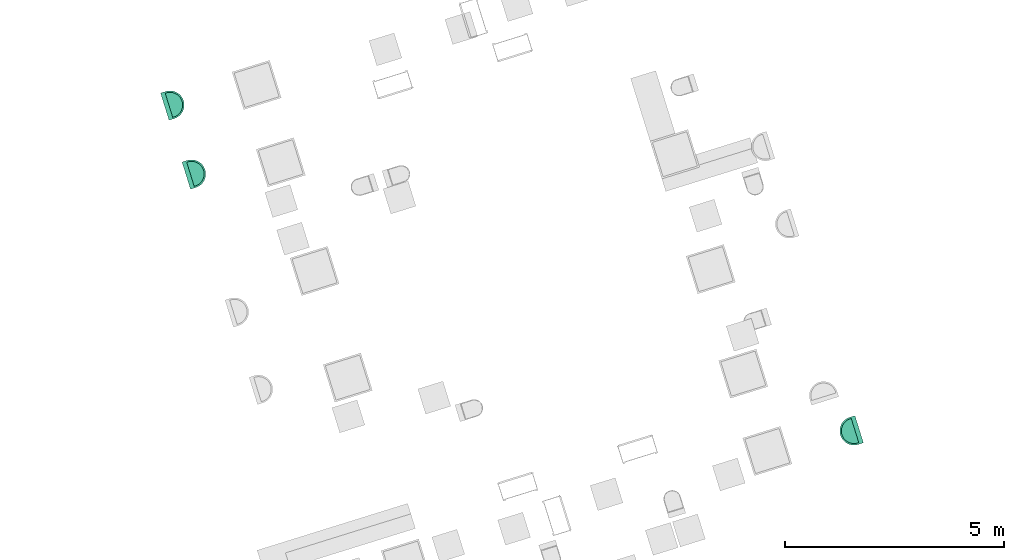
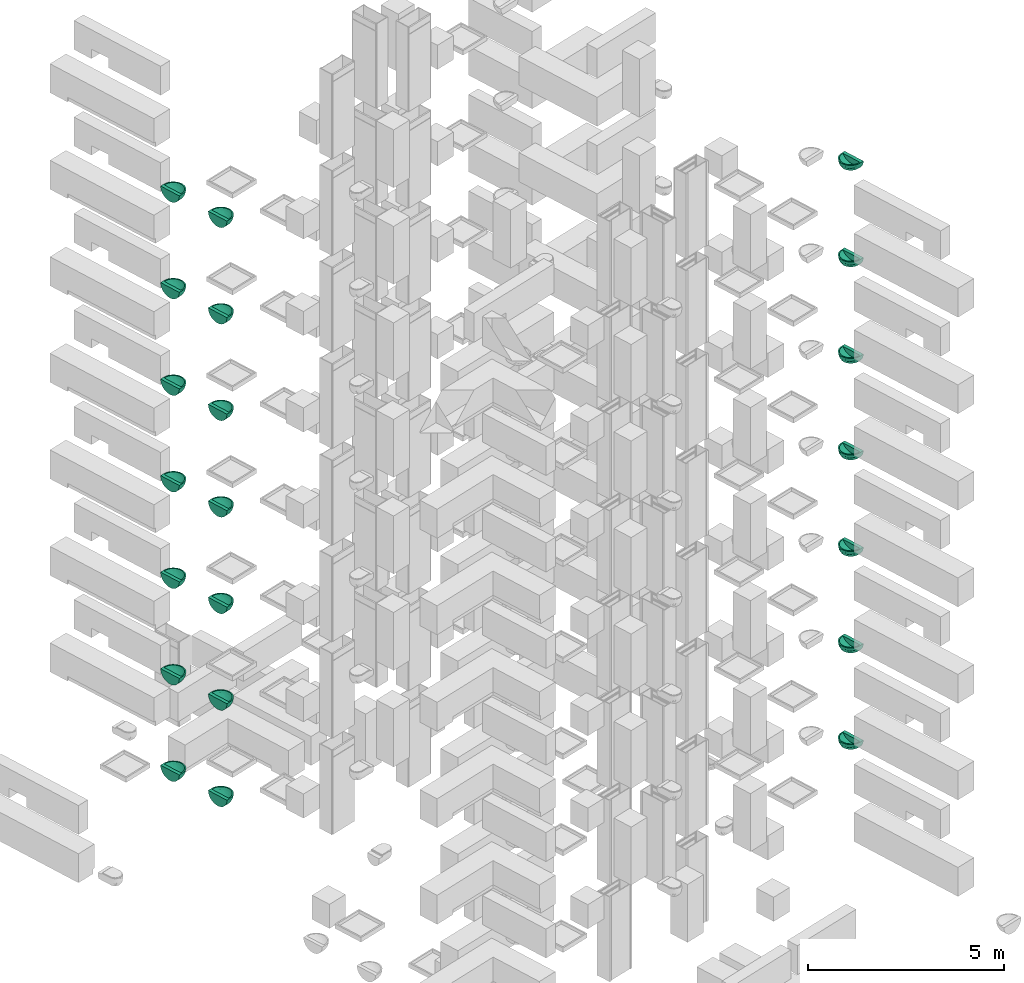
# Not in any storey, part 13 of 20: 21 sanitary terminals.
"""IFC4 model written with IfcOpenShell, lengths in metres."""

from ifc_helpers import new_model, entity, si_unit, converted_unit, direction, frame, origin, place, context, subcontext, project, polygons, source, transform, mapped, material, type_object, element, save


model = new_model("IFC4")

# Units and contexts
model_context = context("Model", 3, precision=1e-05, world=origin(), true_north=direction((6.12323399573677e-17, 1.0)))
body_context = subcontext(model_context, "Body", "Model", "MODEL_VIEW")
ifc_project = project(units=[si_unit("LENGTHUNIT", "METRE"), si_unit("AREAUNIT", "SQUARE_METRE"), si_unit("VOLUMEUNIT", "CUBIC_METRE"), converted_unit("PLANEANGLEUNIT", "DEGREE", entity("IfcPlaneAngleMeasure", 0.0174532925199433), si_unit("PLANEANGLEUNIT", "RADIAN"), dimensions=[0, 0, 0, 0, 0, 0, 0])], contexts=[model_context])

# Sanitary terminals
ifc_material = material(Name="<Unnamed>")
sanitary_terminal_type = type_object("IfcSanitaryTerminalType", Name="NLRS_74_PF_WB_wastafel_gen:wastafel", PredefinedType="SINK", material=ifc_material)
shared_shape = source(origin(), body_context, "Body", "Tessellation", [
    polygons([(-0.303081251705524, 0.175000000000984, -3.7), (-0.303081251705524, 0.0499999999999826, -3.7), (0.021918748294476, 0.0499999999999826, -3.7), (0.021918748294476, 0.150000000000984, -3.7), (-0.266395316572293, 0.150000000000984, -3.7), (-0.266395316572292, 0.175000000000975, -3.7), (-0.264816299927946, 0.205133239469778, -3.7), (-0.260095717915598, 0.234940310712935, -3.7), (-0.252285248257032, 0.264090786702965, -3.7), (-0.241470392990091, 0.292265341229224, -3.7), (-0.227769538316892, 0.319155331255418, -3.7), (-0.21133265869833, 0.344466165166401, -3.7), (-0.192339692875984, 0.367920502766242, -3.7), (-0.170998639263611, 0.389261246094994, -3.7), (-0.147543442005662, 0.408254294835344, -3.7), (-0.122231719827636, 0.424691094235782, -3.7), (-0.0953421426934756, 0.438391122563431, -3.7), (-0.0671705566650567, 0.449204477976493, -3.7), (-0.038024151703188, 0.457013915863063, -3.7), (-0.00821701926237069, 0.461734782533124, -3.7), (0.021918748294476, 0.463314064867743, -3.7), (0.021918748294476, 0.500000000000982, -3.7), (-0.0414856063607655, 0.493755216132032, -3.7), (-0.102453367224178, 0.475260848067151, -3.7), (-0.158641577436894, 0.44522762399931, -3.7), (-0.207890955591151, 0.404809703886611, -3.7), (-0.248308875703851, 0.355560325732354, -3.7), (-0.278342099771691, 0.299372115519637, -3.7), (-0.296836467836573, 0.238404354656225, -3.7), (0.346918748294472, 0.175000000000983, -3.7), (0.340673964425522, 0.238404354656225, -3.7), (0.32217959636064, 0.299372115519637, -3.7), (0.292146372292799, 0.355560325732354, -3.7), (0.2517284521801, 0.404809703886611, -3.7), (0.202479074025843, 0.44522762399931, -3.7), (0.146290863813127, 0.475260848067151, -3.7), (0.0853231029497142, 0.493755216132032, -3.7), (0.0520545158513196, 0.461734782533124, -3.7), (0.0818616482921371, 0.457013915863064, -3.7), (0.111008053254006, 0.449204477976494, -3.7), (0.139179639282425, 0.438391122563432, -3.7), (0.166069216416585, 0.424691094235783, -3.7), (0.191380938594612, 0.408254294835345, -3.7), (0.214836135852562, 0.389261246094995, -3.7), (0.236177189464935, 0.367920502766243, -3.7), (0.255170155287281, 0.344466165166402, -3.7), (0.271607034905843, 0.319155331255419, -3.7), (0.285307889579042, 0.292265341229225, -3.7), (0.296122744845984, 0.264090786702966, -3.7), (0.303933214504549, 0.234940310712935, -3.7), (0.308653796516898, 0.205133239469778, -3.7), (0.310232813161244, 0.175000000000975, -3.7), (0.310232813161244, 0.150000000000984, -3.7), (0.346918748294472, 0.0499999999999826, -3.7), (-0.298628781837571, 0.175000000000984, -3.75361232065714), (-0.285393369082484, 0.175000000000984, -3.8057556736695), (-0.263737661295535, 0.175000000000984, -3.85500134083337), (-0.234255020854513, 0.175000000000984, -3.9), (-0.234255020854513, 0.0749999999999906, -3.9), (-0.193925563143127, 0.0749999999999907, -3.94297372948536), (-0.146498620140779, 0.0749999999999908, -3.97795789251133), (-0.0935337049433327, 0.0749999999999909, -4.00380212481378), (-0.0367724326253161, 0.074999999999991, -4.01965660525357), (0.0219187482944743, 0.074999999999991, -4.025), (0.0806099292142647, 0.074999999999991, -4.01965660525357), (0.137371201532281, 0.0749999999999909, -4.00380212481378), (0.190336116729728, 0.0749999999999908, -3.97795789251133), (0.237763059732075, 0.0749999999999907, -3.94297372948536), (0.278092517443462, 0.0749999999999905, -3.9), (0.278092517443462, 0.175000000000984, -3.9), (0.307575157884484, 0.175000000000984, -3.85500134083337), (0.329230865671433, 0.175000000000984, -3.8057556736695), (0.34246627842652, 0.175000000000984, -3.75361232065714), (0.340673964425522, 0.0499999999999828, -3.76340435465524), (0.32217959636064, 0.049999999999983, -3.82437211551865), (0.292146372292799, 0.0499999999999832, -3.88056032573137), (0.2517284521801, 0.0499999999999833, -3.92980970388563), (0.202479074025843, 0.0499999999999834, -3.97022762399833), (0.146290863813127, 0.0499999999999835, -4.00026084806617), (0.085323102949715, 0.0499999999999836, -4.01875521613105), (0.0219187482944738, 0.0499999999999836, -4.025), (-0.0414856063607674, 0.0499999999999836, -4.01875521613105), (-0.102453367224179, 0.0499999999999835, -4.00026084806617), (-0.158641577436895, 0.0499999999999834, -3.97022762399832), (-0.207890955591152, 0.0499999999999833, -3.92980970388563), (-0.248308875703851, 0.0499999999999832, -3.88056032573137), (-0.278342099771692, 0.049999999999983, -3.82437211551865), (-0.296836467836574, 0.0499999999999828, -3.76340435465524), (-0.21409029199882, 0.0749999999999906, -3.92148686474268), (-0.170212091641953, 0.0749999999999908, -3.96046581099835), (0.214049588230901, 0.0749999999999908, -3.96046581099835), (0.257927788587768, 0.0749999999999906, -3.92148686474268), (0.27193741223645, 0.0499999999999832, -3.9051850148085), (0.227103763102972, 0.0499999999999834, -3.95001866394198), (0.174384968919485, 0.0499999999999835, -3.98524423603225), (0.115806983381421, 0.0499999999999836, -4.00950803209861), (-0.0719694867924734, 0.0499999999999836, -4.00950803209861), (-0.130547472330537, 0.0499999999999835, -3.98524423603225), (-0.183266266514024, 0.0499999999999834, -3.95001866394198), (-0.228099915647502, 0.0499999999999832, -3.9051850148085), (0.163853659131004, 0.0749999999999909, -3.99088000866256), (0.108990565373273, 0.0749999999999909, -4.01172936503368), (-0.0651530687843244, 0.0749999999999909, -4.01172936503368), (-0.120016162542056, 0.0749999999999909, -3.99088000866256), (0.27659082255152, 0.202697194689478, -3.9), (0.272103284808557, 0.230069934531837, -3.9), (0.264682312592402, 0.256797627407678, -3.9), (0.254414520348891, 0.282567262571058, -3.9), (0.24141970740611, 0.307076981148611, -3.9), (0.225849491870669, 0.330039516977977, -3.9), (0.207885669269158, 0.351185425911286, -3.9), (0.18773840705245, 0.370266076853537, -3.9), (0.165644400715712, 0.38705644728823, -3.9), (0.141864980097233, 0.401357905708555, -3.9), (0.116683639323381, 0.413001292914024, -3.9), (0.0904016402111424, 0.421850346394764, -3.9), (0.0633306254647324, 0.427804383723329, -3.9), (0.0357845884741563, 0.430798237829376, -3.9), (0.00807674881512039, 0.43079952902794, -3.9), (-0.0194777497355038, 0.427806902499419, -3.9), (-0.0465597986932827, 0.421851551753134, -3.9), (-0.0728496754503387, 0.412999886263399, -3.9), (-0.0980340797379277, 0.401354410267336, -3.9), (-0.121813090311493, 0.387052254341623, -3.9), (-0.1439051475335, 0.370262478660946, -3.9), (-0.164050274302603, 0.351183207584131, -3.9), (-0.182012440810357, 0.33003893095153, -3.9), (-0.197581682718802, 0.307077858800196, -3.9), (-0.210576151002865, 0.282569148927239, -3.9), (-0.220844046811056, 0.256799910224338, -3.9), (-0.228265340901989, 0.230071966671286, -3.9), (-0.232753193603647, 0.202698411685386, -3.9), (-0.257045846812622, 0.297316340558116, -3.81332461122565), (0.300884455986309, 0.297313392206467, -3.81332505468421), (-0.0097834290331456, 0.496877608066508, -3.7), (-0.205655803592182, 0.378737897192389, -3.81102113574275), (0.249493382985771, 0.378737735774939, -3.81102126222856), (0.0536209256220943, 0.496877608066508, -3.7), (0.0219337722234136, 0.481913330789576, -3.80690747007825), (-0.0719694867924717, 0.484508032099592, -3.7), (0.11580698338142, 0.484508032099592, -3.7), (-0.0425022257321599, 0.471258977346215, -3.81707073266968), (-0.165040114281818, 0.416191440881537, -3.81179477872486), (0.20887408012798, 0.416198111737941, -3.81178629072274), (0.0863501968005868, 0.471256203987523, -3.8170719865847), (-0.23446246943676, 0.305265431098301, -3.85140868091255), (0.278301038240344, 0.305263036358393, -3.85140892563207), (-0.120243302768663, 0.443687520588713, -3.81498681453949), (0.164074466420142, 0.443691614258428, -3.81498507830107), (-0.233336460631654, 0.358005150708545, -3.78353976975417), (0.277175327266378, 0.358003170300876, -3.78353992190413), (-0.290060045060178, 0.240925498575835, -3.76283359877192), (0.333897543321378, 0.240925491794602, -3.76283359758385), (-0.275008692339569, 0.237028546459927, -3.81666856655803), (-0.254394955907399, 0.239447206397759, -3.85850014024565), (-0.272362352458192, 0.296908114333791, -3.76451391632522), (0.31884634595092, 0.237026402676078, -3.81666930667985), (0.298232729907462, 0.239444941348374, -3.85850057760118), (0.316201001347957, 0.296905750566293, -3.76451312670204), (-0.0755829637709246, 0.474402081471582, -3.78047862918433), (-0.0690330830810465, 0.449635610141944, -3.84808121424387), (0.119420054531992, 0.474406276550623, -3.7804635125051), (0.112885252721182, 0.449636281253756, -3.84807095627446), (-0.228099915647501, 0.380185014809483, -3.7), (0.27193741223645, 0.380185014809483, -3.7), (-0.183266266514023, 0.425018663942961, -3.7), (0.227103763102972, 0.425018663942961, -3.7), (-0.130547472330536, 0.460244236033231, -3.7), (0.174384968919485, 0.460244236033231, -3.7), (-0.234514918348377, 0.175000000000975, -3.74966665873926), (-0.194178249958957, 0.175000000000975, -3.79274902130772), (-0.146715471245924, 0.175000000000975, -3.82782638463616), (-0.0936917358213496, 0.175000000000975, -3.85374202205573), (-0.0368555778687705, 0.175000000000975, -3.86964132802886), (0.0219187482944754, 0.175000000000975, -3.875), (0.0806930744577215, 0.175000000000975, -3.86964132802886), (0.137529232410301, 0.175000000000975, -3.85374202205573), (0.190552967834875, 0.175000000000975, -3.82782638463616), (0.238015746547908, 0.175000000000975, -3.79274902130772), (0.278352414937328, 0.175000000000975, -3.74966665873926), (-0.119627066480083, 0.322173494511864, -3.80284332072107), (0.163464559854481, 0.32217349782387, -3.8028433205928), (-0.200517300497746, 0.262511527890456, -3.77020203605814), (0.244354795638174, 0.262511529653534, -3.77020203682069), (-0.162633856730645, 0.347041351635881, -3.75485875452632), (0.206471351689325, 0.347041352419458, -3.75485875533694), (0.00220012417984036, 0.367185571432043, -3.81134437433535), (-0.0912046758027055, 0.393814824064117, -3.76200981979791), (0.135042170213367, 0.393814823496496, -3.76200982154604), (0.0498196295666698, 0.280825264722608, -3.85601887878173), (-0.0620730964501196, 0.266760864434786, -3.85025041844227), (0.160889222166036, 0.248929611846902, -3.83433540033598), (0.0405814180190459, 0.417340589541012, -3.76574926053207), (0.0863370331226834, 0.354389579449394, -3.81323879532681), (-0.00909478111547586, 0.420066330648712, -3.76120050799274), (-0.0478694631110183, 0.381606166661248, -3.79097405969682), (-0.0422183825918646, 0.327597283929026, -3.82968821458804), (-0.0074080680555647, 0.286981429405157, -3.8536858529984), (-0.00719351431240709, 0.22811728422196, -3.869305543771), (-0.0504034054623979, 0.422275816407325, -3.7481140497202), (0.115439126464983, 0.298042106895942, -3.83590134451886), (0.101584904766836, 0.237319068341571, -3.85886022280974), (-0.144773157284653, 0.251326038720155, -3.81835264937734), (0.0860600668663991, 0.418745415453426, -3.75518056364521), (-0.234512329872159, 0.150000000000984, -3.74966998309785), (-0.19417475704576, 0.150000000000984, -3.79275213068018), (-0.146711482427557, 0.150000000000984, -3.8278288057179), (-0.0936885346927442, 0.150000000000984, -3.85374324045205), (-0.0368543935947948, 0.150000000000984, -3.869641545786), (0.021917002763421, 0.150000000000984, -3.87499999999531), (0.080687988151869, 0.150000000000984, -3.86964226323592), (0.137520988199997, 0.150000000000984, -3.85374515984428), (0.19054233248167, 0.150000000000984, -3.82783283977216), (0.238003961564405, 0.150000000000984, -3.79275951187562), (0.278341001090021, 0.150000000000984, -3.74968131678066)], [[[22, 135, 23, 140, 24, 168, 25, 166, 26, 164, 27, 28, 29, 1, 2, 3, 54, 30, 31, 32, 33, 165, 34, 167, 35, 169, 36, 141, 37, 138], [21, 38, 39, 40, 41, 42, 43, 44, 45, 46, 47, 48, 49, 50, 51, 52, 53, 4, 5, 6, 7, 8, 9, 10, 11, 12, 13, 14, 15, 16, 17, 18, 19, 20]], [[55, 2, 1]], [[88, 55, 56]], [[56, 57, 87]], [[89, 100, 59]], [[97, 62, 103]], [[104, 83, 98]], [[82, 103, 63]], [[97, 103, 82]], [[63, 81, 82]], [[57, 58, 59]], [[68, 77, 94]], [[86, 59, 100]], [[86, 87, 57]], [[88, 2, 55]], [[56, 87, 88]], [[59, 86, 57]], [[98, 84, 61]], [[83, 62, 97]], [[60, 99, 85]], [[90, 61, 84]], [[69, 76, 93]], [[90, 99, 60]], [[100, 89, 85]], [[60, 85, 89]], [[78, 67, 91]], [[63, 64, 81]], [[66, 96, 102]], [[83, 104, 62]], [[68, 94, 91]], [[67, 78, 95]], [[79, 101, 95]], [[67, 95, 101]], [[72, 73, 74]], [[69, 70, 71]], [[75, 71, 72]], [[77, 68, 92]], [[81, 64, 65]], [[54, 73, 30]], [[99, 90, 84]], [[102, 80, 65]], [[79, 66, 101]], [[91, 94, 78]], [[80, 102, 96]], [[65, 80, 81]], [[66, 79, 96]], [[93, 77, 92]], [[69, 71, 76]], [[75, 76, 71]], [[72, 74, 75]], [[73, 54, 74]], [[69, 93, 92]], [[98, 61, 104]], [[74, 54, 3, 2, 88, 87, 86, 100, 85, 99, 84, 98, 83, 97, 82, 81, 80, 96, 79, 95, 78, 94, 77, 93, 76, 75]], [[143, 136, 25]], [[32, 159, 33]], [[134, 157, 158]], [[143, 125, 126]], [[146, 150, 136]], [[126, 127, 143]], [[109, 147, 108]], [[136, 143, 127]], [[125, 143, 148]], [[153, 157, 159]], [[121, 122, 161]], [[142, 135, 139]], [[153, 159, 32]], [[119, 120, 142]], [[24, 148, 143]], [[142, 160, 23]], [[147, 151, 134]], [[160, 161, 148]], [[124, 148, 123]], [[140, 148, 24]], [[160, 140, 23]], [[158, 106, 107]], [[128, 146, 136]], [[29, 28, 152]], [[148, 140, 160]], [[55, 152, 56]], [[156, 133, 154]], [[29, 55, 1]], [[152, 55, 29]], [[151, 34, 165]], [[137, 151, 147]], [[156, 28, 27]], [[121, 161, 142]], [[119, 142, 139]], [[131, 155, 130]], [[129, 130, 146]], [[149, 112, 113]], [[150, 26, 166]], [[58, 57, 155]], [[139, 118, 119]], [[56, 154, 57]], [[155, 57, 154]], [[161, 123, 148]], [[138, 145, 139]], [[155, 146, 130]], [[127, 128, 136]], [[133, 164, 150]], [[155, 132, 58]], [[161, 160, 142]], [[145, 138, 37]], [[71, 70, 158]], [[128, 129, 146]], [[139, 135, 22]], [[138, 139, 22]], [[139, 145, 118]], [[135, 142, 23]], [[145, 116, 117]], [[114, 149, 113]], [[149, 141, 36]], [[144, 35, 137]], [[154, 152, 156]], [[146, 155, 133]], [[110, 144, 137]], [[148, 124, 125]], [[163, 145, 162]], [[151, 165, 134]], [[144, 112, 149]], [[137, 109, 110]], [[118, 145, 117]], [[154, 133, 155]], [[162, 145, 37]], [[28, 156, 152]], [[150, 146, 133]], [[24, 143, 25, 168]], [[111, 112, 144]], [[110, 111, 144]], [[116, 145, 163]], [[137, 167, 151]], [[109, 137, 147]], [[120, 121, 142]], [[71, 158, 157]], [[107, 147, 158]], [[162, 37, 141]], [[147, 134, 158]], [[107, 108, 147]], [[157, 72, 71]], [[70, 105, 158]], [[152, 154, 56]], [[153, 31, 73]], [[114, 115, 163]], [[137, 35, 167]], [[156, 164, 133]], [[30, 73, 31]], [[153, 73, 72]], [[150, 166, 136]], [[157, 134, 159]], [[105, 106, 158]], [[31, 153, 32]], [[144, 36, 169, 35]], [[155, 131, 132]], [[164, 26, 150]], [[159, 134, 165]], [[157, 153, 72]], [[161, 122, 123]], [[141, 149, 162]], [[149, 114, 163]], [[149, 163, 162]], [[116, 163, 115]], [[164, 156, 27]], [[165, 33, 159]], [[25, 136, 166]], [[34, 151, 167]], [[36, 144, 149]], [[16, 15, 185]], [[190, 187, 198]], [[14, 13, 185]], [[199, 202, 190]], [[197, 198, 187]], [[183, 185, 11]], [[188, 17, 16]], [[191, 197, 181]], [[21, 195, 193]], [[193, 194, 204]], [[191, 203, 173]], [[197, 187, 196]], [[195, 200, 196]], [[20, 195, 21]], [[188, 16, 185]], [[195, 196, 187]], [[188, 196, 200]], [[198, 197, 191]], [[8, 183, 9]], [[188, 200, 18]], [[8, 7, 170]], [[201, 194, 190]], [[192, 201, 202]], [[170, 7, 6]], [[10, 9, 183]], [[20, 19, 200]], [[203, 183, 171]], [[173, 203, 172]], [[190, 202, 201]], [[171, 183, 170]], [[170, 183, 8]], [[185, 13, 12]], [[10, 183, 11]], [[179, 184, 178]], [[17, 188, 18]], [[12, 11, 185]], [[198, 199, 190]], [[14, 185, 15]], [[196, 188, 181]], [[174, 199, 191]], [[195, 187, 193]], [[182, 189, 194]], [[186, 42, 189]], [[182, 192, 184]], [[202, 176, 177]], [[189, 41, 40]], [[39, 38, 204]], [[43, 42, 186]], [[45, 44, 186]], [[197, 196, 181]], [[186, 184, 47]], [[194, 193, 187]], [[204, 189, 40]], [[186, 47, 46]], [[194, 201, 182]], [[44, 43, 186]], [[174, 175, 199]], [[48, 47, 184]], [[42, 41, 189]], [[174, 191, 173]], [[178, 184, 192]], [[192, 177, 178]], [[182, 184, 186]], [[181, 183, 203]], [[199, 198, 191]], [[181, 188, 185]], [[179, 180, 184]], [[200, 195, 20]], [[18, 200, 19]], [[180, 50, 184]], [[52, 51, 180]], [[50, 180, 51]], [[38, 21, 193]], [[46, 45, 186]], [[202, 199, 175]], [[184, 50, 49]], [[48, 184, 49]], [[181, 185, 183]], [[192, 182, 201]], [[40, 39, 204]], [[190, 194, 187]], [[182, 186, 189]], [[192, 202, 177]], [[175, 176, 202]], [[181, 203, 191]], [[172, 203, 171]], [[189, 204, 194]], [[193, 204, 38]], [[6, 5, 170]], [[170, 205, 171]], [[173, 172, 207]], [[206, 172, 171]], [[174, 173, 208]], [[170, 5, 205]], [[171, 205, 206]], [[174, 209, 210]], [[173, 207, 208]], [[174, 208, 209]], [[207, 172, 206]], [[210, 175, 174]], [[176, 175, 211]], [[176, 212, 177]], [[179, 178, 214]], [[213, 178, 177]], [[180, 179, 215]], [[212, 176, 211]], [[213, 177, 212]], [[214, 215, 179]], [[178, 213, 214]], [[53, 180, 215]], [[180, 53, 52]], [[210, 211, 175]], [[215, 214, 213, 212, 211, 210, 209, 208, 207, 206, 205, 5, 4, 53]], [[67, 101, 66, 102, 65, 64, 63, 103, 62, 104, 61, 90, 60, 89, 59, 69, 92, 68, 91]], [[69, 59, 58, 132, 131, 130, 129, 128, 127, 126, 125, 124, 123, 122, 121, 120, 119, 118, 117, 116, 115, 114, 113, 112, 111, 110, 109, 108, 107, 106, 105, 70]]], closed=True),
])
placement_1 = place(None, frame((13.1347999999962, 11.9886000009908, 0.0), z_axis=(0.0, 0.0, 1.0), x_axis=(0.954770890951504, 0.297342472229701, 0.0)))
placement_2 = place(placement_1, origin())
placement_3 = place(placement_2, frame((0.0, 0.0, 6.9)))
placement_4 = place(placement_3, origin())
sanitary_terminal_1_placement = place(placement_4, frame((22.7750000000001, 11.1530812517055, 4.525), z_axis=(0.0, 0.0, 1.0), x_axis=(0.0, 1.0, 0.0)))
element("IfcSanitaryTerminal", 1, at=sanitary_terminal_1_placement, type_object=sanitary_terminal_type, material=ifc_material, Name="NLRS_74_PF_WB_wastafel_gen:wastafel", ObjectType="NLRS_74_PF_WB_wastafel_gen:wastafel", PredefinedType="SINK", context=body_context, shape_type="MappedRepresentation", body=[
    mapped(shared_shape, transform((0.0, 0.0, 0.0), scale=1.0)),
])
placement_5 = place(placement_2, frame((0.0, 0.0, 9.9)))
placement_6 = place(placement_5, origin())
sanitary_terminal_2_placement = place(placement_6, frame((22.7750000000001, 11.1530812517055, 4.525), z_axis=(0.0, 0.0, 1.0), x_axis=(0.0, 1.0, 0.0)))
element("IfcSanitaryTerminal", 2, at=sanitary_terminal_2_placement, type_object=sanitary_terminal_type, material=ifc_material, Name="NLRS_74_PF_WB_wastafel_gen:wastafel", ObjectType="NLRS_74_PF_WB_wastafel_gen:wastafel", PredefinedType="SINK", context=body_context, shape_type="MappedRepresentation", body=[
    mapped(shared_shape, transform((0.0, 0.0, 0.0), scale=1.0)),
])
placement_7 = place(placement_2, frame((0.0, 0.0, 12.9)))
placement_8 = place(placement_7, origin())
sanitary_terminal_3_placement = place(placement_8, frame((22.7750000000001, 11.1530812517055, 4.525), z_axis=(0.0, 0.0, 1.0), x_axis=(0.0, 1.0, 0.0)))
element("IfcSanitaryTerminal", 3, at=sanitary_terminal_3_placement, type_object=sanitary_terminal_type, material=ifc_material, Name="NLRS_74_PF_WB_wastafel_gen:wastafel", ObjectType="NLRS_74_PF_WB_wastafel_gen:wastafel", PredefinedType="SINK", context=body_context, shape_type="MappedRepresentation", body=[
    mapped(shared_shape, transform((0.0, 0.0, 0.0), scale=1.0)),
])
placement_9 = place(placement_2, frame((0.0, 0.0, 15.9)))
placement_10 = place(placement_9, origin())
sanitary_terminal_4_placement = place(placement_10, frame((22.7750000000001, 11.1530812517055, 4.525), z_axis=(0.0, 0.0, 1.0), x_axis=(0.0, 1.0, 0.0)))
element("IfcSanitaryTerminal", 4, at=sanitary_terminal_4_placement, type_object=sanitary_terminal_type, material=ifc_material, Name="NLRS_74_PF_WB_wastafel_gen:wastafel", ObjectType="NLRS_74_PF_WB_wastafel_gen:wastafel", PredefinedType="SINK", context=body_context, shape_type="MappedRepresentation", body=[
    mapped(shared_shape, transform((0.0, 0.0, 0.0), scale=1.0)),
])
placement_11 = place(placement_2, frame((0.0, 0.0, 18.9)))
placement_12 = place(placement_11, origin())
sanitary_terminal_5_placement = place(placement_12, frame((22.7750000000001, 11.1530812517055, 4.525), z_axis=(0.0, 0.0, 1.0), x_axis=(0.0, 1.0, 0.0)))
element("IfcSanitaryTerminal", 5, at=sanitary_terminal_5_placement, type_object=sanitary_terminal_type, material=ifc_material, Name="NLRS_74_PF_WB_wastafel_gen:wastafel", ObjectType="NLRS_74_PF_WB_wastafel_gen:wastafel", PredefinedType="SINK", context=body_context, shape_type="MappedRepresentation", body=[
    mapped(shared_shape, transform((0.0, 0.0, 0.0), scale=1.0)),
])
placement_13 = place(placement_2, frame((0.0, 0.0, 21.9)))
placement_14 = place(placement_13, origin())
sanitary_terminal_6_placement = place(placement_14, frame((22.7750000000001, 11.1530812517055, 4.525), z_axis=(0.0, 0.0, 1.0), x_axis=(0.0, 1.0, 0.0)))
element("IfcSanitaryTerminal", 6, at=sanitary_terminal_6_placement, type_object=sanitary_terminal_type, material=ifc_material, Name="NLRS_74_PF_WB_wastafel_gen:wastafel", ObjectType="NLRS_74_PF_WB_wastafel_gen:wastafel", PredefinedType="SINK", context=body_context, shape_type="MappedRepresentation", body=[
    mapped(shared_shape, transform((0.0, 0.0, 0.0), scale=1.0)),
])
placement_15 = place(placement_2, frame((0.0, 0.0, 24.9)))
placement_16 = place(placement_15, origin())
sanitary_terminal_7_placement = place(placement_16, frame((22.7750000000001, 11.1530812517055, 4.525), z_axis=(0.0, 0.0, 1.0), x_axis=(0.0, 1.0, 0.0)))
element("IfcSanitaryTerminal", 7, at=sanitary_terminal_7_placement, type_object=sanitary_terminal_type, material=ifc_material, Name="NLRS_74_PF_WB_wastafel_gen:wastafel", ObjectType="NLRS_74_PF_WB_wastafel_gen:wastafel", PredefinedType="SINK", context=body_context, shape_type="MappedRepresentation", body=[
    mapped(shared_shape, transform((0.0, 0.0, 0.0), scale=1.0)),
])
placement_17 = place(placement_3, origin())
sanitary_terminal_8_placement = place(placement_17, frame((9.72500000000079, 22.9469187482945, 4.525), z_axis=(0.0, 0.0, 1.0), x_axis=(0.0, -1.0, 0.0)))
element("IfcSanitaryTerminal", 8, at=sanitary_terminal_8_placement, type_object=sanitary_terminal_type, material=ifc_material, Name="NLRS_74_PF_WB_wastafel_gen:wastafel", ObjectType="NLRS_74_PF_WB_wastafel_gen:wastafel", PredefinedType="SINK", context=body_context, shape_type="MappedRepresentation", body=[
    mapped(shared_shape, transform((0.0, 0.0, 0.0), scale=1.0)),
])
placement_18 = place(placement_5, origin())
sanitary_terminal_9_placement = place(placement_18, frame((9.72500000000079, 22.9469187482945, 4.525), z_axis=(0.0, 0.0, 1.0), x_axis=(0.0, -1.0, 0.0)))
element("IfcSanitaryTerminal", 9, at=sanitary_terminal_9_placement, type_object=sanitary_terminal_type, material=ifc_material, Name="NLRS_74_PF_WB_wastafel_gen:wastafel", ObjectType="NLRS_74_PF_WB_wastafel_gen:wastafel", PredefinedType="SINK", context=body_context, shape_type="MappedRepresentation", body=[
    mapped(shared_shape, transform((0.0, 0.0, 0.0), scale=1.0)),
])
placement_19 = place(placement_7, origin())
sanitary_terminal_10_placement = place(placement_19, frame((9.72500000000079, 22.9469187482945, 4.525), z_axis=(0.0, 0.0, 1.0), x_axis=(0.0, -1.0, 0.0)))
element("IfcSanitaryTerminal", 10, at=sanitary_terminal_10_placement, type_object=sanitary_terminal_type, material=ifc_material, Name="NLRS_74_PF_WB_wastafel_gen:wastafel", ObjectType="NLRS_74_PF_WB_wastafel_gen:wastafel", PredefinedType="SINK", context=body_context, shape_type="MappedRepresentation", body=[
    mapped(shared_shape, transform((0.0, 0.0, 0.0), scale=1.0)),
])
placement_20 = place(placement_9, origin())
sanitary_terminal_11_placement = place(placement_20, frame((9.72500000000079, 22.9469187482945, 4.525), z_axis=(0.0, 0.0, 1.0), x_axis=(0.0, -1.0, 0.0)))
element("IfcSanitaryTerminal", 11, at=sanitary_terminal_11_placement, type_object=sanitary_terminal_type, material=ifc_material, Name="NLRS_74_PF_WB_wastafel_gen:wastafel", ObjectType="NLRS_74_PF_WB_wastafel_gen:wastafel", PredefinedType="SINK", context=body_context, shape_type="MappedRepresentation", body=[
    mapped(shared_shape, transform((0.0, 0.0, 0.0), scale=1.0)),
])
placement_21 = place(placement_11, origin())
sanitary_terminal_12_placement = place(placement_21, frame((9.72500000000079, 22.9469187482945, 4.525), z_axis=(0.0, 0.0, 1.0), x_axis=(0.0, -1.0, 0.0)))
element("IfcSanitaryTerminal", 12, at=sanitary_terminal_12_placement, type_object=sanitary_terminal_type, material=ifc_material, Name="NLRS_74_PF_WB_wastafel_gen:wastafel", ObjectType="NLRS_74_PF_WB_wastafel_gen:wastafel", PredefinedType="SINK", context=body_context, shape_type="MappedRepresentation", body=[
    mapped(shared_shape, transform((0.0, 0.0, 0.0), scale=1.0)),
])
placement_22 = place(placement_13, origin())
sanitary_terminal_13_placement = place(placement_22, frame((9.72500000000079, 22.9469187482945, 4.525), z_axis=(0.0, 0.0, 1.0), x_axis=(0.0, -1.0, 0.0)))
element("IfcSanitaryTerminal", 13, at=sanitary_terminal_13_placement, type_object=sanitary_terminal_type, material=ifc_material, Name="NLRS_74_PF_WB_wastafel_gen:wastafel", ObjectType="NLRS_74_PF_WB_wastafel_gen:wastafel", PredefinedType="SINK", context=body_context, shape_type="MappedRepresentation", body=[
    mapped(shared_shape, transform((0.0, 0.0, 0.0), scale=1.0)),
])
placement_23 = place(placement_15, origin())
sanitary_terminal_14_placement = place(placement_23, frame((9.72500000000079, 22.9469187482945, 4.525), z_axis=(0.0, 0.0, 1.0), x_axis=(0.0, -1.0, 0.0)))
element("IfcSanitaryTerminal", 14, at=sanitary_terminal_14_placement, type_object=sanitary_terminal_type, material=ifc_material, Name="NLRS_74_PF_WB_wastafel_gen:wastafel", ObjectType="NLRS_74_PF_WB_wastafel_gen:wastafel", PredefinedType="SINK", context=body_context, shape_type="MappedRepresentation", body=[
    mapped(shared_shape, transform((0.0, 0.0, 0.0), scale=1.0)),
])
placement_24 = place(placement_3, origin())
sanitary_terminal_15_placement = place(placement_24, frame((9.72500000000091, 21.2969187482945, 4.525), z_axis=(0.0, 0.0, 1.0), x_axis=(0.0, -1.0, 0.0)))
element("IfcSanitaryTerminal", 15, at=sanitary_terminal_15_placement, type_object=sanitary_terminal_type, material=ifc_material, Name="NLRS_74_PF_WB_wastafel_gen:wastafel", ObjectType="NLRS_74_PF_WB_wastafel_gen:wastafel", PredefinedType="SINK", context=body_context, shape_type="MappedRepresentation", body=[
    mapped(shared_shape, transform((0.0, 0.0, 0.0), scale=1.0)),
])
placement_25 = place(placement_5, origin())
sanitary_terminal_16_placement = place(placement_25, frame((9.72500000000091, 21.2969187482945, 4.525), z_axis=(0.0, 0.0, 1.0), x_axis=(0.0, -1.0, 0.0)))
element("IfcSanitaryTerminal", 16, at=sanitary_terminal_16_placement, type_object=sanitary_terminal_type, material=ifc_material, Name="NLRS_74_PF_WB_wastafel_gen:wastafel", ObjectType="NLRS_74_PF_WB_wastafel_gen:wastafel", PredefinedType="SINK", context=body_context, shape_type="MappedRepresentation", body=[
    mapped(shared_shape, transform((0.0, 0.0, 0.0), scale=1.0)),
])
placement_26 = place(placement_7, origin())
sanitary_terminal_17_placement = place(placement_26, frame((9.72500000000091, 21.2969187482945, 4.525), z_axis=(0.0, 0.0, 1.0), x_axis=(0.0, -1.0, 0.0)))
element("IfcSanitaryTerminal", 17, at=sanitary_terminal_17_placement, type_object=sanitary_terminal_type, material=ifc_material, Name="NLRS_74_PF_WB_wastafel_gen:wastafel", ObjectType="NLRS_74_PF_WB_wastafel_gen:wastafel", PredefinedType="SINK", context=body_context, shape_type="MappedRepresentation", body=[
    mapped(shared_shape, transform((0.0, 0.0, 0.0), scale=1.0)),
])
placement_27 = place(placement_9, origin())
sanitary_terminal_18_placement = place(placement_27, frame((9.72500000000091, 21.2969187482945, 4.525), z_axis=(0.0, 0.0, 1.0), x_axis=(0.0, -1.0, 0.0)))
element("IfcSanitaryTerminal", 18, at=sanitary_terminal_18_placement, type_object=sanitary_terminal_type, material=ifc_material, Name="NLRS_74_PF_WB_wastafel_gen:wastafel", ObjectType="NLRS_74_PF_WB_wastafel_gen:wastafel", PredefinedType="SINK", context=body_context, shape_type="MappedRepresentation", body=[
    mapped(shared_shape, transform((0.0, 0.0, 0.0), scale=1.0)),
])
placement_28 = place(placement_11, origin())
sanitary_terminal_19_placement = place(placement_28, frame((9.72500000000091, 21.2969187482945, 4.525), z_axis=(0.0, 0.0, 1.0), x_axis=(0.0, -1.0, 0.0)))
element("IfcSanitaryTerminal", 19, at=sanitary_terminal_19_placement, type_object=sanitary_terminal_type, material=ifc_material, Name="NLRS_74_PF_WB_wastafel_gen:wastafel", ObjectType="NLRS_74_PF_WB_wastafel_gen:wastafel", PredefinedType="SINK", context=body_context, shape_type="MappedRepresentation", body=[
    mapped(shared_shape, transform((0.0, 0.0, 0.0), scale=1.0)),
])
placement_29 = place(placement_13, origin())
sanitary_terminal_20_placement = place(placement_29, frame((9.72500000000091, 21.2969187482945, 4.525), z_axis=(0.0, 0.0, 1.0), x_axis=(0.0, -1.0, 0.0)))
element("IfcSanitaryTerminal", 20, at=sanitary_terminal_20_placement, type_object=sanitary_terminal_type, material=ifc_material, Name="NLRS_74_PF_WB_wastafel_gen:wastafel", ObjectType="NLRS_74_PF_WB_wastafel_gen:wastafel", PredefinedType="SINK", context=body_context, shape_type="MappedRepresentation", body=[
    mapped(shared_shape, transform((0.0, 0.0, 0.0), scale=1.0)),
])
placement_30 = place(placement_15, origin())
sanitary_terminal_21_placement = place(placement_30, frame((9.72500000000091, 21.2969187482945, 4.525), z_axis=(0.0, 0.0, 1.0), x_axis=(0.0, -1.0, 0.0)))
element("IfcSanitaryTerminal", 21, at=sanitary_terminal_21_placement, type_object=sanitary_terminal_type, material=ifc_material, Name="NLRS_74_PF_WB_wastafel_gen:wastafel", ObjectType="NLRS_74_PF_WB_wastafel_gen:wastafel", PredefinedType="SINK", context=body_context, shape_type="MappedRepresentation", body=[
    mapped(shared_shape, transform((0.0, 0.0, 0.0), scale=1.0)),
])

save(model, "model.ifc")
